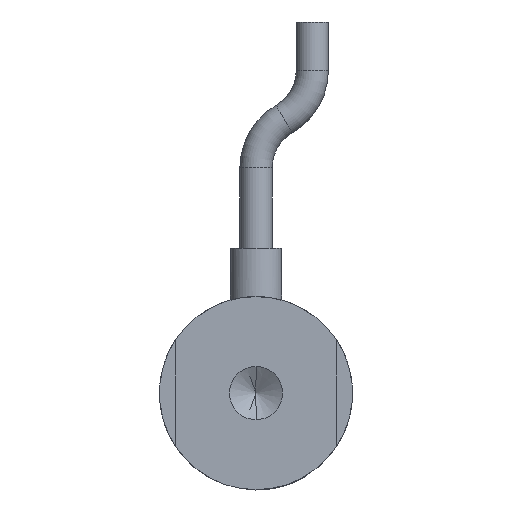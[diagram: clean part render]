
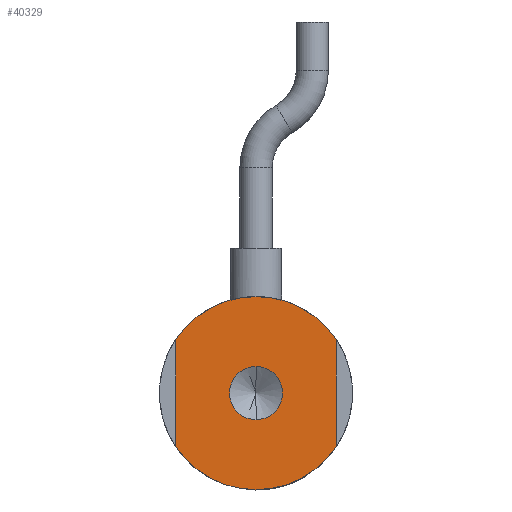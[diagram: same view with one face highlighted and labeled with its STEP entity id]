
A CAD part, front view. The second image highlights one B-rep face of the part: STEP entity #40329.
In plain terms, the highlighted planar face has unit normal (0, -1, 0).
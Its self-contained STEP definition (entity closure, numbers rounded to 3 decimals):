
#8 = AXIS2_PLACEMENT_3D ( 'NONE', #30222, #10127, #33508 ) ;
#436 = ORIENTED_EDGE ( 'NONE', *, *, #17740, .F. ) ;
#3747 = CARTESIAN_POINT ( 'NONE',  ( -5., 0., -3.317 ) ) ;
#4352 = ORIENTED_EDGE ( 'NONE', *, *, #15486, .F. ) ;
#4677 = CARTESIAN_POINT ( 'NONE',  ( 0., 0., 0. ) ) ;
#4840 = CARTESIAN_POINT ( 'NONE',  ( 5., 0., 0. ) ) ;
#4868 = DIRECTION ( 'NONE',  ( 0., 1., 0. ) ) ;
#4904 = CARTESIAN_POINT ( 'NONE',  ( 0., 0., 0. ) ) ;
#4912 = VERTEX_POINT ( 'NONE', #30036 ) ;
#5205 = VERTEX_POINT ( 'NONE', #39804 ) ;
#6213 = VECTOR ( 'NONE', #27218, 1000. ) ;
#6747 = FACE_BOUND ( 'NONE', #9579, .T. ) ;
#6860 = CARTESIAN_POINT ( 'NONE',  ( 0., 0., 0. ) ) ;
#6985 = CARTESIAN_POINT ( 'NONE',  ( -5., 0., 0. ) ) ;
#7235 = VERTEX_POINT ( 'NONE', #35937 ) ;
#7670 = AXIS2_PLACEMENT_3D ( 'NONE', #28207, #4868, #28497 ) ;
#8124 = DIRECTION ( 'NONE',  ( 0., 0., 1. ) ) ;
#8346 = DIRECTION ( 'NONE',  ( 0., 0., -1. ) ) ;
#9100 = EDGE_CURVE ( 'NONE', #5205, #39640, #26053, .T. ) ;
#9579 = EDGE_LOOP ( 'NONE', ( #11235, #21348 ) ) ;
#10127 = DIRECTION ( 'NONE',  ( 0., 1., 0. ) ) ;
#10342 = DIRECTION ( 'NONE',  ( 0., 0., 1. ) ) ;
#11235 = ORIENTED_EDGE ( 'NONE', *, *, #37193, .F. ) ;
#11683 = ORIENTED_EDGE ( 'NONE', *, *, #23679, .F. ) ;
#11777 = DIRECTION ( 'NONE',  ( 0., 0., -1. ) ) ;
#12176 = DIRECTION ( 'NONE',  ( 0., -1., 0. ) ) ;
#12262 = AXIS2_PLACEMENT_3D ( 'NONE', #4677, #28307, #8124 ) ;
#14439 = VERTEX_POINT ( 'NONE', #3747 ) ;
#15486 = EDGE_CURVE ( 'NONE', #39640, #4912, #24835, .T. ) ;
#15921 = VECTOR ( 'NONE', #11777, 1000. ) ;
#16326 = DIRECTION ( 'NONE',  ( 0., 1., 0. ) ) ;
#16648 = ORIENTED_EDGE ( 'NONE', *, *, #38564, .F. ) ;
#17740 = EDGE_CURVE ( 'NONE', #41621, #14439, #22158, .T. ) ;
#19032 = CARTESIAN_POINT ( 'NONE',  ( 0., 0., 6. ) ) ;
#21348 = ORIENTED_EDGE ( 'NONE', *, *, #37671, .F. ) ;
#21943 = AXIS2_PLACEMENT_3D ( 'NONE', #6860, #30434, #10342 ) ;
#21964 = VERTEX_POINT ( 'NONE', #33721 ) ;
#22158 = CIRCLE ( 'NONE', #12262, 6. ) ;
#23209 = LINE ( 'NONE', #6985, #6213 ) ;
#23679 = EDGE_CURVE ( 'NONE', #14439, #5205, #23209, .T. ) ;
#23746 = ORIENTED_EDGE ( 'NONE', *, *, #40828, .F. ) ;
#24835 = CIRCLE ( 'NONE', #8, 6. ) ;
#24868 = CIRCLE ( 'NONE', #32170, 1.65 ) ;
#25153 = PLANE ( 'NONE',  #7670 ) ;
#26053 = CIRCLE ( 'NONE', #21943, 6. ) ;
#27218 = DIRECTION ( 'NONE',  ( 0., 0., 1. ) ) ;
#27436 = CIRCLE ( 'NONE', #35679, 1.65 ) ;
#28032 = AXIS2_PLACEMENT_3D ( 'NONE', #36144, #16326, #39380 ) ;
#28207 = CARTESIAN_POINT ( 'NONE',  ( 0., 0., 0. ) ) ;
#28307 = DIRECTION ( 'NONE',  ( 0., 1., 0. ) ) ;
#28395 = CIRCLE ( 'NONE', #28032, 6. ) ;
#28497 = DIRECTION ( 'NONE',  ( 0., 0., 1. ) ) ;
#28535 = DIRECTION ( 'NONE',  ( 0., -1., 0. ) ) ;
#28645 = CARTESIAN_POINT ( 'NONE',  ( 0., 0., -6. ) ) ;
#30036 = CARTESIAN_POINT ( 'NONE',  ( 5., 0., 3.317 ) ) ;
#30222 = CARTESIAN_POINT ( 'NONE',  ( 0., 0., 0. ) ) ;
#30434 = DIRECTION ( 'NONE',  ( 0., 1., 0. ) ) ;
#30727 = ORIENTED_EDGE ( 'NONE', *, *, #9100, .F. ) ;
#32170 = AXIS2_PLACEMENT_3D ( 'NONE', #4904, #28535, #8346 ) ;
#32191 = CARTESIAN_POINT ( 'NONE',  ( 0., 0., 0. ) ) ;
#33508 = DIRECTION ( 'NONE',  ( 0., 0., 1. ) ) ;
#33721 = CARTESIAN_POINT ( 'NONE',  ( 0., 0., -1.65 ) ) ;
#35412 = DIRECTION ( 'NONE',  ( 0., 0., -1. ) ) ;
#35679 = AXIS2_PLACEMENT_3D ( 'NONE', #32191, #12176, #35412 ) ;
#35937 = CARTESIAN_POINT ( 'NONE',  ( 0., 0., 1.65 ) ) ;
#36144 = CARTESIAN_POINT ( 'NONE',  ( 0., 0., 0. ) ) ;
#37193 = EDGE_CURVE ( 'NONE', #21964, #7235, #24868, .T. ) ;
#37611 = EDGE_LOOP ( 'NONE', ( #11683, #436, #23746, #16648, #4352, #30727 ) ) ;
#37671 = EDGE_CURVE ( 'NONE', #7235, #21964, #27436, .T. ) ;
#38564 = EDGE_CURVE ( 'NONE', #4912, #39478, #42130, .T. ) ;
#39380 = DIRECTION ( 'NONE',  ( 0., 0., 1. ) ) ;
#39478 = VERTEX_POINT ( 'NONE', #41286 ) ;
#39640 = VERTEX_POINT ( 'NONE', #19032 ) ;
#39804 = CARTESIAN_POINT ( 'NONE',  ( -5., 0., 3.317 ) ) ;
#40329 = ADVANCED_FACE ( 'NONE', ( #6747, #41088 ), #25153, .F. ) ;
#40828 = EDGE_CURVE ( 'NONE', #39478, #41621, #28395, .T. ) ;
#41088 = FACE_OUTER_BOUND ( 'NONE', #37611, .T. ) ;
#41286 = CARTESIAN_POINT ( 'NONE',  ( 5., 0., -3.317 ) ) ;
#41621 = VERTEX_POINT ( 'NONE', #28645 ) ;
#42130 = LINE ( 'NONE', #4840, #15921 ) ;
